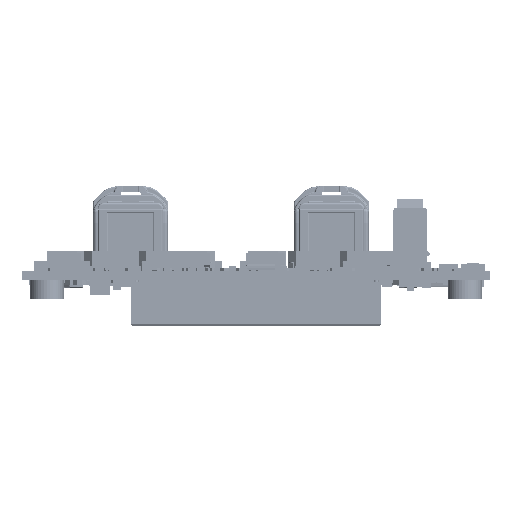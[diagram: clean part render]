
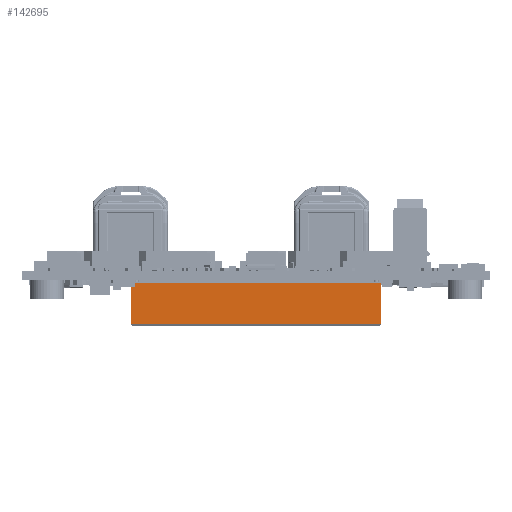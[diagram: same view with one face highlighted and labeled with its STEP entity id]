
A CAD part, front view. The second image highlights one B-rep face of the part: STEP entity #142695.
In plain terms, the highlighted planar face has unit normal (0, -1, 0) as drawn and (0, 0, 1) by its records, which use the part's own axes.
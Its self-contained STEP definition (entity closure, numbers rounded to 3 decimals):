
#142670 = VERTEX_POINT('',#142671);
#142671 = CARTESIAN_POINT('',(20.003,6.81,2.985));
#142677 = EDGE_CURVE('',#142670,#142678,#142680,.T.);
#142678 = VERTEX_POINT('',#142679);
#142679 = CARTESIAN_POINT('',(20.003,0.178,2.985));
#142680 = LINE('',#142681,#142682);
#142681 = CARTESIAN_POINT('',(20.003,6.81,2.985));
#142682 = VECTOR('',#142683,1.);
#142683 = DIRECTION('',(-0.,-1.,-0.));
#142695 = ADVANCED_FACE('',(#142696),#142721,.F.);
#142696 = FACE_BOUND('',#142697,.T.);
#142697 = EDGE_LOOP('',(#142698,#142706,#142707,#142715));
#142698 = ORIENTED_EDGE('',*,*,#142699,.F.);
#142699 = EDGE_CURVE('',#142678,#142700,#142702,.T.);
#142700 = VERTEX_POINT('',#142701);
#142701 = CARTESIAN_POINT('',(-20.003,0.178,2.985));
#142702 = LINE('',#142703,#142704);
#142703 = CARTESIAN_POINT('',(-20.003,0.178,2.985));
#142704 = VECTOR('',#142705,1.);
#142705 = DIRECTION('',(-1.,0.,0.));
#142706 = ORIENTED_EDGE('',*,*,#142677,.F.);
#142707 = ORIENTED_EDGE('',*,*,#142708,.F.);
#142708 = EDGE_CURVE('',#142709,#142670,#142711,.T.);
#142709 = VERTEX_POINT('',#142710);
#142710 = CARTESIAN_POINT('',(-20.003,6.81,2.985));
#142711 = LINE('',#142712,#142713);
#142712 = CARTESIAN_POINT('',(-20.003,6.81,2.985));
#142713 = VECTOR('',#142714,1.);
#142714 = DIRECTION('',(1.,0.,0.));
#142715 = ORIENTED_EDGE('',*,*,#142716,.T.);
#142716 = EDGE_CURVE('',#142709,#142700,#142717,.T.);
#142717 = LINE('',#142718,#142719);
#142718 = CARTESIAN_POINT('',(-20.003,6.81,2.985));
#142719 = VECTOR('',#142720,1.);
#142720 = DIRECTION('',(-0.,-1.,-0.));
#142721 = PLANE('',#142722);
#142722 = AXIS2_PLACEMENT_3D('',#142723,#142724,#142725);
#142723 = CARTESIAN_POINT('',(-20.003,6.81,2.985));
#142724 = DIRECTION('',(0.,0.,-1.));
#142725 = DIRECTION('',(-1.,0.,0.));
